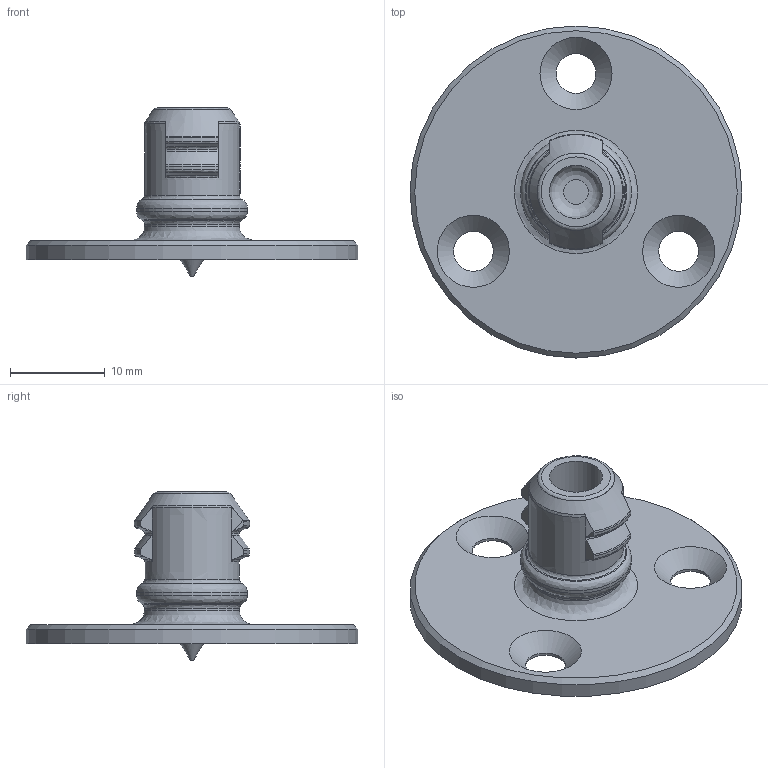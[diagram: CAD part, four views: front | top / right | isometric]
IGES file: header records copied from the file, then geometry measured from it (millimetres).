
Start section: SolidWorks IGES file using analytic representation for surfaces
Global section: file name: D:\Blender\Clients\FAS - Fastmount\FAS000 - General\Customer files\Clip Geometry\PC - Standard Range\IGES\PC-SVMX.IGS; native system: SolidWorks 2018; preprocessor: SolidWorks 2018; author: Evan; date: 200304.141434; units: millimetre
Bounding box: 35 x 35 x 17.75 mm (x, y, z)
Surface area: 2767.8 mm2 (no closed solid volume)
Topology: 0 solids, 0 shells, 220 faces, 2093 edges, 2070 vertices
Faces by surface type: bspline 163, revolution 57
